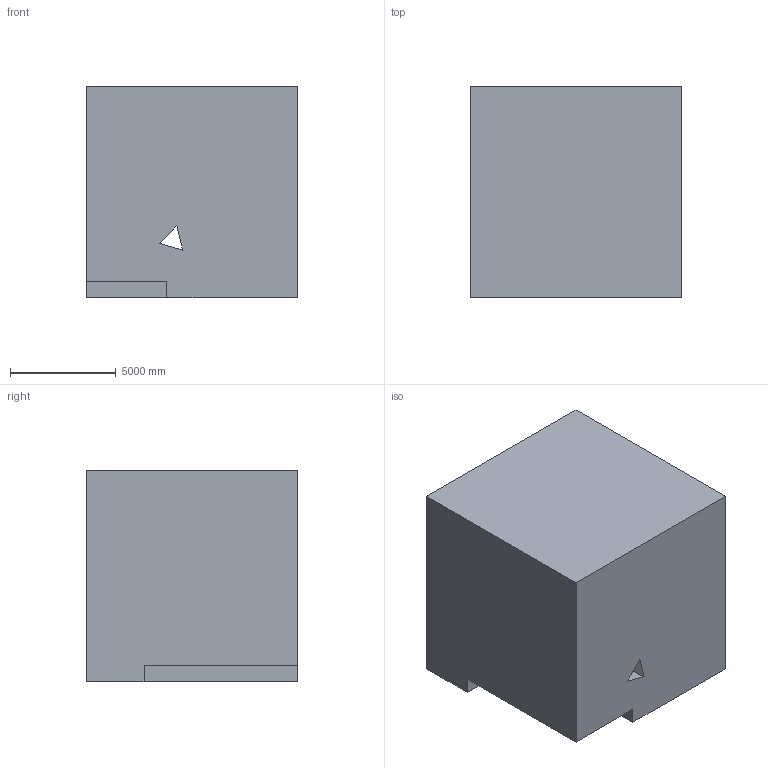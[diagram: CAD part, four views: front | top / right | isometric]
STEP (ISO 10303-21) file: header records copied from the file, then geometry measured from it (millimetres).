
FILE_DESCRIPTION (( 'STEP AP203' ), '1' );
FILE_NAME ('13.STEP', '2022-09-02T13:40:29', ( 'user' ), ( '' ), 'SwSTEP 2.0', 'SolidWorks 2021', '' );
FILE_SCHEMA (( 'CONFIG_CONTROL_DESIGN' ));
Length unit declared in the file: centimetre
Products named in the file (1): 13
Bounding box: 10000 x 10000 x 10000 mm (x, y, z)
Volume: 973120438460.6 mm3; surface area: 633707005.9 mm2
Topology: 1 solids, 1 shells, 12 faces, 30 edges, 20 vertices
Faces by surface type: plane 12
Entity records: 435 total; most frequent: CARTESIAN_POINT 63, ORIENTED_EDGE 60, DIRECTION 56, LINE 30, VECTOR 30, EDGE_CURVE 30, VERTEX_POINT 20, EDGE_LOOP 14
